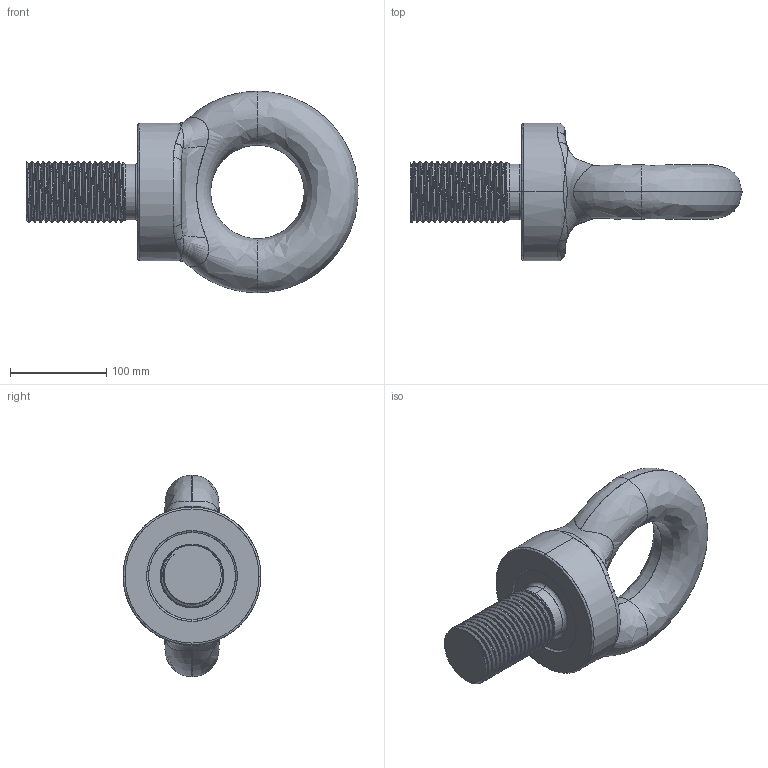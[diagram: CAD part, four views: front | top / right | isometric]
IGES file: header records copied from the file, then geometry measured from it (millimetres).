
Start section: SolidWorks IGES file using analytic representation for surfaces
Global section: file name: C:\Users\Brenton\Documents\Townley\Eye Bolts\EBMC64\EBMC64.IGS; native system: SolidWorks 2012; preprocessor: SolidWorks 2012; author: Brenton; date: 140226.144805; units: millimetre
Bounding box: 344.3 x 143 x 209 mm (x, y, z)
Surface area: 149668.8 mm2 (no closed solid volume)
Topology: 0 solids, 0 shells, 78 faces, 2792 edges, 2786 vertices
Faces by surface type: revolution 42, bspline 36
